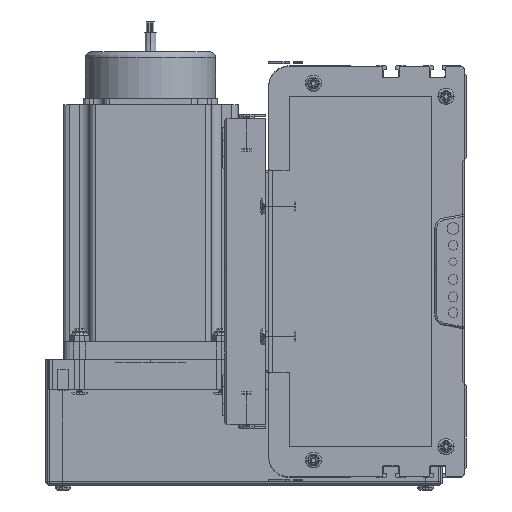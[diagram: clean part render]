
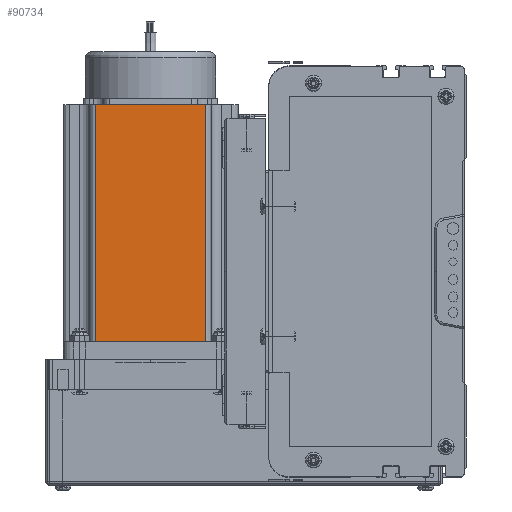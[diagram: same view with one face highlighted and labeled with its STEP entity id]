
A CAD part, left-side view. The second image highlights one B-rep face of the part: STEP entity #90734.
In plain terms, the highlighted planar face has unit normal (-1, 0, 0) as drawn and (0, -1, 0) by its records, which use the part's own axes.
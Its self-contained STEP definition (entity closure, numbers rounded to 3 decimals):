
#900 = AXIS2_PLACEMENT_3D ( 'NONE', #910, #922, #1238 ) ;
#901 = DIRECTION ( 'NONE',  ( 0., 0., -1. ) ) ;
#903 = VECTOR ( 'NONE', #901, 1000. ) ;
#905 = CARTESIAN_POINT ( 'NONE',  ( 16.16, 0., 116.5 ) ) ;
#907 = LINE ( 'NONE', #905, #903 ) ;
#910 = CARTESIAN_POINT ( 'NONE',  ( 0., 0., 116.5 ) ) ;
#916 = DIRECTION ( 'NONE',  ( 1., 0., 0. ) ) ;
#917 = VECTOR ( 'NONE', #916, 1000. ) ;
#919 = CARTESIAN_POINT ( 'NONE',  ( 0., 0., 0. ) ) ;
#921 = LINE ( 'NONE', #919, #917 ) ;
#922 = DIRECTION ( 'NONE',  ( 0., 1., 0. ) ) ;
#957 = FACE_OUTER_BOUND ( 'NONE', #90728, .T. ) ;
#958 = CARTESIAN_POINT ( 'NONE',  ( 69.74, 0., 0. ) ) ;
#1192 = DIRECTION ( 'NONE',  ( 0., 0., 1. ) ) ;
#1194 = CARTESIAN_POINT ( 'NONE',  ( 69.74, 0., 116.5 ) ) ;
#1195 = LINE ( 'NONE', #1194, #1212 ) ;
#1212 = VECTOR ( 'NONE', #1192, 1000. ) ;
#1238 = DIRECTION ( 'NONE',  ( 0., 0., 1. ) ) ;
#1257 = PLANE ( 'NONE',  #900 ) ;
#1262 = LINE ( 'NONE', #1403, #1267 ) ;
#1267 = VECTOR ( 'NONE', #1438, 1000. ) ;
#1403 = CARTESIAN_POINT ( 'NONE',  ( 0., 0., 116.5 ) ) ;
#1438 = DIRECTION ( 'NONE',  ( 1., 0., 0. ) ) ;
#3466 = CARTESIAN_POINT ( 'NONE',  ( 16.16, 0., 0. ) ) ;
#3572 = CARTESIAN_POINT ( 'NONE',  ( 16.16, 0., 116.5 ) ) ;
#90283 = VERTEX_POINT ( 'NONE', #101910 ) ;
#90290 = ORIENTED_EDGE ( 'NONE', *, *, #90723, .T. ) ;
#90662 = EDGE_CURVE ( 'NONE', #90914, #90283, #1262, .T. ) ;
#90716 = VERTEX_POINT ( 'NONE', #958 ) ;
#90719 = EDGE_CURVE ( 'NONE', #90934, #90716, #921, .T. ) ;
#90723 = EDGE_CURVE ( 'NONE', #90914, #90934, #907, .T. ) ;
#90728 = EDGE_LOOP ( 'NONE', ( #90741, #90910, #90745, #90290 ) ) ;
#90734 = ADVANCED_FACE ( 'NONE', ( #957 ), #1257, .F. ) ;
#90741 = ORIENTED_EDGE ( 'NONE', *, *, #90719, .T. ) ;
#90743 = EDGE_CURVE ( 'NONE', #90716, #90283, #1195, .T. ) ;
#90745 = ORIENTED_EDGE ( 'NONE', *, *, #90662, .F. ) ;
#90910 = ORIENTED_EDGE ( 'NONE', *, *, #90743, .T. ) ;
#90914 = VERTEX_POINT ( 'NONE', #3572 ) ;
#90934 = VERTEX_POINT ( 'NONE', #3466 ) ;
#101910 = CARTESIAN_POINT ( 'NONE',  ( 69.74, 0., 116.5 ) ) ;
